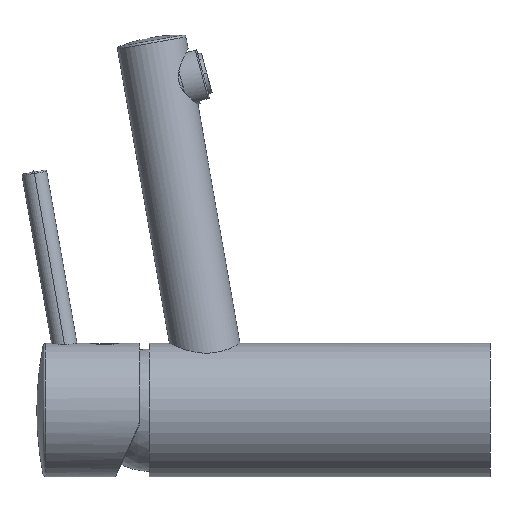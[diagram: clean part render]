
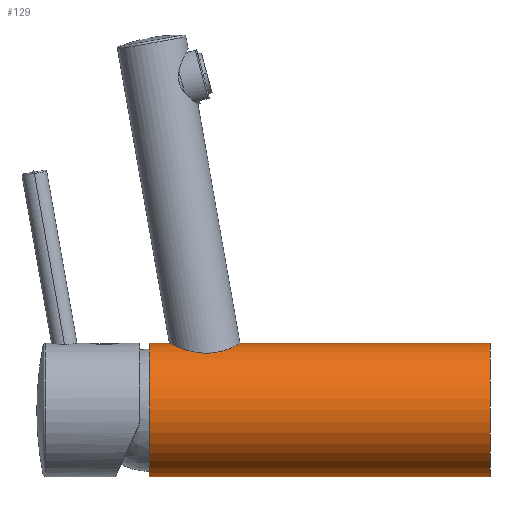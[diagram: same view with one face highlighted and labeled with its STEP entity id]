
A CAD part, left-side view. The second image highlights one B-rep face of the part: STEP entity #129.
In plain terms, the highlighted cylindrical face has radius 24 mm (diameter 48 mm), a partial arc.
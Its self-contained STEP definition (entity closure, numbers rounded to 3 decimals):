
#1=CARTESIAN_POINT('',(0.,97.,24.));
#19=CARTESIAN_POINT('',(0.,109.,24.));
#26=CARTESIAN_POINT('',(0.,109.,24.));
#27=CARTESIAN_POINT('',(-0.395,109.,24.));
#28=CARTESIAN_POINT('',(-1.17,108.924,23.981));
#29=CARTESIAN_POINT('',(-2.302,108.583,23.898));
#30=CARTESIAN_POINT('',(-3.338,108.031,23.774));
#31=CARTESIAN_POINT('',(-4.246,107.292,23.626));
#32=CARTESIAN_POINT('',(-4.996,106.391,23.478));
#33=CARTESIAN_POINT('',(-5.559,105.358,23.349));
#34=CARTESIAN_POINT('',(-5.915,104.22,23.26));
#35=CARTESIAN_POINT('',(-6.039,103.03,23.228));
#36=CARTESIAN_POINT('',(-5.927,101.841,23.257));
#37=CARTESIAN_POINT('',(-5.584,100.701,23.343));
#38=CARTESIAN_POINT('',(-5.027,99.654,23.471));
#39=CARTESIAN_POINT('',(-4.278,98.738,23.621));
#40=CARTESIAN_POINT('',(-3.365,97.986,23.77));
#41=CARTESIAN_POINT('',(-2.322,97.425,23.896));
#42=CARTESIAN_POINT('',(-1.181,97.078,23.98));
#43=CARTESIAN_POINT('',(-0.399,97.,24.));
#44=CARTESIAN_POINT('',(0.,97.,24.));
#46=DIRECTION('',(0.,1.,0.));
#47=VECTOR('',#46,97.);
#48=CARTESIAN_POINT('',(0.,0.,24.));
#49=LINE('',#48,#47);
#50=CARTESIAN_POINT('',(0.,0.,0.));
#51=DIRECTION('',(0.,1.,0.));
#52=DIRECTION('',(0.,0.,-1.));
#53=AXIS2_PLACEMENT_3D('',#50,#51,#52);
#55=DIRECTION('',(0.,1.,0.));
#56=VECTOR('',#55,122.5);
#57=CARTESIAN_POINT('',(0.,0.,-24.));
#58=LINE('',#57,#56);
#59=DIRECTION('',(0.,1.,0.));
#60=VECTOR('',#59,13.5);
#61=CARTESIAN_POINT('',(0.,109.,24.));
#62=LINE('',#61,#60);
#63=CARTESIAN_POINT('',(0.,122.5,0.));
#64=DIRECTION('',(0.,1.,0.));
#65=DIRECTION('',(0.,0.,-1.));
#66=AXIS2_PLACEMENT_3D('',#63,#64,#65);
#73=CARTESIAN_POINT('',(0.,0.,-24.));
#74=CARTESIAN_POINT('',(0.,122.5,-24.));
#75=VERTEX_POINT('',#73);
#76=VERTEX_POINT('',#74);
#77=CARTESIAN_POINT('',(0.,0.,24.));
#78=VERTEX_POINT('',#77);
#79=CARTESIAN_POINT('',(0.,122.5,24.));
#80=VERTEX_POINT('',#79);
#81=VERTEX_POINT('',#1);
#82=VERTEX_POINT('',#19);
#114=CARTESIAN_POINT('',(0.,128.625,0.));
#115=DIRECTION('',(0.,-1.,0.));
#116=DIRECTION('',(0.,0.,1.));
#117=AXIS2_PLACEMENT_3D('',#114,#115,#116);
#118=CYLINDRICAL_SURFACE('',#117,24.);
#120=ORIENTED_EDGE('',*,*,#119,.T.);
#121=ORIENTED_EDGE('',*,*,#109,.F.);
#122=ORIENTED_EDGE('',*,*,#90,.F.);
#123=ORIENTED_EDGE('',*,*,#106,.T.);
#125=ORIENTED_EDGE('',*,*,#124,.T.);
#126=ORIENTED_EDGE('',*,*,#102,.F.);
#127=EDGE_LOOP('',(#120,#121,#122,#123,#125,#126));
#128=FACE_OUTER_BOUND('',#127,.F.);
#129=ADVANCED_FACE('',(#128),#118,.T.);
#45=B_SPLINE_CURVE_WITH_KNOTS('',3,(#26,#27,#28,#29,#30,#31,#32,#33,#34,#35,#36,
#37,#38,#39,#40,#41,#42,#43,#44),.UNSPECIFIED.,.F.,.F.,(4,1,1,1,1,1,1,1,1,1,1,1,
1,1,1,1,4),(0.,0.063,0.125,0.188,0.25,0.313,0.375,0.438,
0.5,0.563,0.625,0.688,0.75,0.813,0.875,0.938,1.),
.UNSPECIFIED.);
#54=CIRCLE('',#53,24.);
#67=CIRCLE('',#66,24.);
#90=EDGE_CURVE('',#75,#78,#54,.T.);
#102=EDGE_CURVE('',#82,#80,#62,.T.);
#106=EDGE_CURVE('',#75,#76,#58,.T.);
#109=EDGE_CURVE('',#78,#81,#49,.T.);
#119=EDGE_CURVE('',#82,#81,#45,.T.);
#124=EDGE_CURVE('',#76,#80,#67,.T.);
